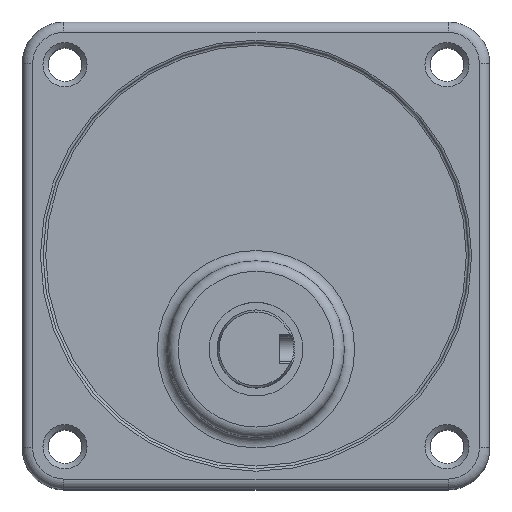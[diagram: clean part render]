
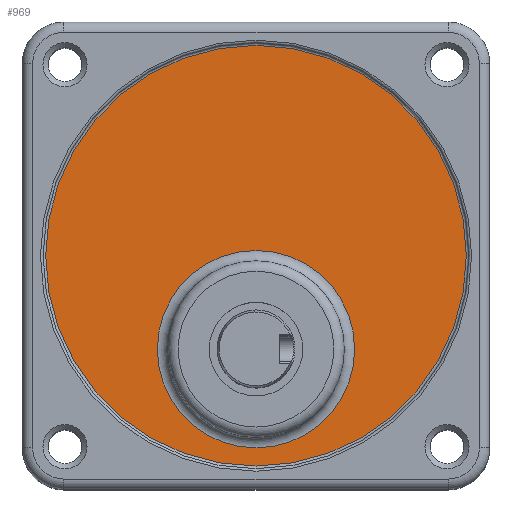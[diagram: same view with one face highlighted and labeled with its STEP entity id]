
A CAD part, top view. The second image highlights one B-rep face of the part: STEP entity #969.
In plain terms, the highlighted planar face has unit normal (0, 0, 1).
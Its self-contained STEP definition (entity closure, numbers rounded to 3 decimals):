
#918=CARTESIAN_POINT('',(64.,27.,64.5));
#919=VERTEX_POINT('',#918);
#920=CARTESIAN_POINT('',(45.,27.0,64.5));
#921=DIRECTION('',(0.0,0.0,1.0));
#922=DIRECTION('',(-1.0,0.0,0.0));
#923=AXIS2_PLACEMENT_3D('',#920,#921,#922);
#924=CIRCLE('',#923,19.0);
#925=EDGE_CURVE('',#919,#919,#924,.T.);
#950=CARTESIAN_POINT('',(45.,45.0,64.5));
#951=DIRECTION('',(0.0,0.0,-1.0));
#952=DIRECTION('',(-1.0,0.0,0.0));
#953=AXIS2_PLACEMENT_3D('',#950,#951,#952);
#954=PLANE('',#953);
#955=CARTESIAN_POINT('',(85.5,45.,64.5));
#956=VERTEX_POINT('',#955);
#957=CARTESIAN_POINT('',(45.,45.0,64.5));
#958=DIRECTION('',(0.0,0.0,-1.0));
#959=DIRECTION('',(-1.0,0.0,0.0));
#960=AXIS2_PLACEMENT_3D('',#957,#958,#959);
#961=CIRCLE('',#960,40.5);
#962=EDGE_CURVE('',#956,#956,#961,.T.);
#963=ORIENTED_EDGE('',*,*,#962,.F.);
#964=EDGE_LOOP('',(#963));
#965=FACE_OUTER_BOUND('',#964,.T.);
#966=ORIENTED_EDGE('',*,*,#925,.F.);
#967=EDGE_LOOP('',(#966));
#968=FACE_BOUND('',#967,.T.);
#969=ADVANCED_FACE('',(#965,#968),#954,.F.);
